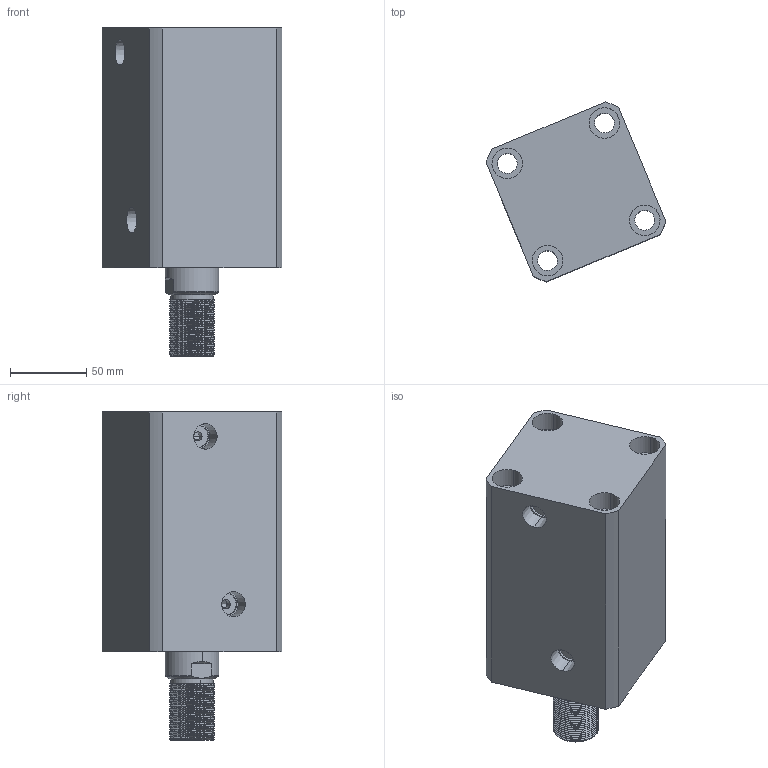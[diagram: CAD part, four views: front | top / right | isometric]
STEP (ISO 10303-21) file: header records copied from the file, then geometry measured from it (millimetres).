
FILE_DESCRIPTION (( 'STEP AP214' ), '1' );
FILE_NAME ('chtb-sd63x95w_asm.STEP', '2018-05-19T02:08:20', ( 'Windows' ), ( 'Microsoft' ), 'SwSTEP 2.0', 'SolidWorks 2015', '' );
FILE_SCHEMA (( 'AUTOMOTIVE_DESIGN' ));
Length unit declared in the file: millimetre
Products named in the file (4): CHTB63X95WHSG; CHTB63X90NBT; CHTB-63QG; chtb-sd63x95w_asm
Assembly tree (3 placements, depth 2):
  chtb-sd63x95w_asm
    CHTB-63QG
    CHTB63X90NBT
    CHTB63X95WHSG
Bounding box: 117.81 x 117.81 x 215 mm (x, y, z)
Volume: 1117422.4 mm3; surface area: 183338.9 mm2
Topology: 3 solids, 3 shells, 219 faces, 625 edges, 427 vertices
Faces by surface type: cylinder 150, plane 36, bspline 14, cone 13, torus 6
Entity records: 22208 total; most frequent: CARTESIAN_POINT 16953, ORIENTED_EDGE 1242, DIRECTION 881, EDGE_CURVE 621, VERTEX_POINT 427, AXIS2_PLACEMENT_3D 346, EDGE_LOOP 252, FACE_OUTER_BOUND 219
